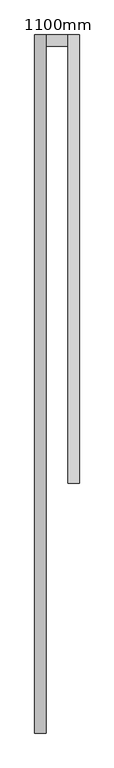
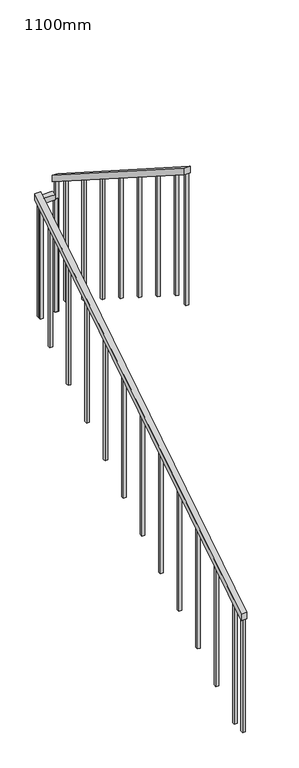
"""IFC4 building model written with IfcOpenShell, lengths in millimetres: railing geometry, 1100mm."""

from ifc_helpers import new_model, si_unit, frame, origin, place, context, project, spatial, polyline, outline, extrude, source, transform, mapped, element, save


def railing_1100mm_0a1800b7(model_context):
    return source(origin(), model_context, "Body", "SweptSolid", [
        extrude(outline(polyline([(17115.506875, 2219.5879612), (17115.506875, 2278.9287354), (20245.2153534, 4279.3266356), (20245.2153534, 4219.9858614), (17115.506875, 2219.5879612)])), frame((-4297.2327605, 0.0, 0.0), z_axis=(1.0, 0.0, 0.0), x_axis=(0.0, 1.0, 0.0)), (0.0, 0.0, 1.0), 50.0),
        extrude(outline(polyline([(20245.2153534, 4394.3609023), (20245.2153534, 4335.02192), (18235.506875, 5619.4220753), (18235.506875, 5678.7610576), (20245.2153534, 4394.3609023)])), frame((-4147.2327605, 0.0, 0.0), z_axis=(1.0, 0.0, 0.0), x_axis=(0.0, 1.0, 0.0)), (0.0, 0.0, 1.0), 50.0),
        extrude(outline(polyline([(-4247.2327605, 20195.2153534), (-4247.2327605, 20245.2153534), (-4147.2327605, 20245.2153534), (-4147.2327605, 20195.2153534), (-4247.2327605, 20195.2153534)])), frame((0.0, 0.0, 4197.3684211), z_axis=(0.0, 0.0, 1.0), x_axis=(1.0, 0.0, 0.0)), (0.0, 0.0, 1.0), 50.0),
        extrude(outline(polyline([(18412.7153534, 4400.0), (18387.7153534, 4400.0), (18387.7153534, 5522.1459801), (18412.7153534, 5506.1685365), (18412.7153534, 4400.0)])), frame((-4134.7327605, 0.0, 0.0), z_axis=(1.0, 0.0, 0.0), x_axis=(0.0, 1.0, 0.0)), (0.0, 0.0, 1.0), 25.0),
        extrude(outline(polyline([(18692.7153534, 4221.0526316), (18667.7153534, 4221.0526316), (18667.7153534, 5343.1986117), (18692.7153534, 5327.2211681), (18692.7153534, 4221.0526316)])), frame((-4134.7327605, 0.0, 0.0), z_axis=(1.0, 0.0, 0.0), x_axis=(0.0, 1.0, 0.0)), (0.0, 0.0, 1.0), 25.0),
        extrude(outline(polyline([(18972.7153534, 4042.1052632), (18947.7153534, 4042.1052632), (18947.7153534, 5164.2512433), (18972.7153534, 5148.2737997), (18972.7153534, 4042.1052632)])), frame((-4134.7327605, 0.0, 0.0), z_axis=(1.0, 0.0, 0.0), x_axis=(0.0, 1.0, 0.0)), (0.0, 0.0, 1.0), 25.0),
        extrude(outline(polyline([(19252.7153534, 3863.1578947), (19227.7153534, 3863.1578947), (19227.7153534, 4985.3038749), (19252.7153534, 4969.3264313), (19252.7153534, 3863.1578947)])), frame((-4134.7327605, 0.0, 0.0), z_axis=(1.0, 0.0, 0.0), x_axis=(0.0, 1.0, 0.0)), (0.0, 0.0, 1.0), 25.0),
        extrude(outline(polyline([(19532.7153534, 3684.2105263), (19507.7153534, 3684.2105263), (19507.7153534, 4806.3565065), (19532.7153534, 4790.3790628), (19532.7153534, 3684.2105263)])), frame((-4134.7327605, 0.0, 0.0), z_axis=(1.0, 0.0, 0.0), x_axis=(0.0, 1.0, 0.0)), (0.0, 0.0, 1.0), 25.0),
        extrude(outline(polyline([(19812.7153534, 3505.2631579), (19787.7153534, 3505.2631579), (19787.7153534, 4627.409138), (19812.7153534, 4611.4316944), (19812.7153534, 3505.2631579)])), frame((-4134.7327605, 0.0, 0.0), z_axis=(1.0, 0.0, 0.0), x_axis=(0.0, 1.0, 0.0)), (0.0, 0.0, 1.0), 25.0),
        extrude(outline(polyline([(20092.7153534, 3326.3157895), (20067.7153534, 3326.3157895), (20067.7153534, 4448.4617696), (20092.7153534, 4432.484326), (20092.7153534, 3326.3157895)])), frame((-4134.7327605, 0.0, 0.0), z_axis=(1.0, 0.0, 0.0), x_axis=(0.0, 1.0, 0.0)), (0.0, 0.0, 1.0), 25.0),
        extrude(outline(polyline([(-4144.7327605, 20232.7153534), (-4119.7327605, 20232.7153534), (-4119.7327605, 20207.7153534), (-4144.7327605, 20207.7153534), (-4144.7327605, 20232.7153534)])), frame((0.0, 0.0, 3147.3684211), z_axis=(0.0, 0.0, 1.0), x_axis=(1.0, 0.0, 0.0)), (0.0, 0.0, 1.0), 1050.0),
        extrude(outline(polyline([(20043.006875, 4090.7227898), (20068.006875, 4106.701897), (20068.006875, 2968.4210526), (20043.006875, 2968.4210526), (20043.006875, 4090.7227898)])), frame((-4284.7327605, 0.0, 0.0), z_axis=(1.0, 0.0, 0.0), x_axis=(0.0, 1.0, 0.0)), (0.0, 0.0, 1.0), 25.0),
        extrude(outline(polyline([(19763.006875, 3911.7754213), (19788.006875, 3927.7545286), (19788.006875, 2789.4736842), (19763.006875, 2789.4736842), (19763.006875, 3911.7754213)])), frame((-4284.7327605, 0.0, 0.0), z_axis=(1.0, 0.0, 0.0), x_axis=(0.0, 1.0, 0.0)), (0.0, 0.0, 1.0), 25.0),
        extrude(outline(polyline([(19483.006875, 3732.8280529), (19508.006875, 3748.8071602), (19508.006875, 2610.5263158), (19483.006875, 2610.5263158), (19483.006875, 3732.8280529)])), frame((-4284.7327605, 0.0, 0.0), z_axis=(1.0, 0.0, 0.0), x_axis=(0.0, 1.0, 0.0)), (0.0, 0.0, 1.0), 25.0),
        extrude(outline(polyline([(19203.006875, 3553.8806845), (19228.006875, 3569.8597918), (19228.006875, 2431.5789474), (19203.006875, 2431.5789474), (19203.006875, 3553.8806845)])), frame((-4284.7327605, 0.0, 0.0), z_axis=(1.0, 0.0, 0.0), x_axis=(0.0, 1.0, 0.0)), (0.0, 0.0, 1.0), 25.0),
        extrude(outline(polyline([(18923.006875, 3374.9333161), (18948.006875, 3390.9124233), (18948.006875, 2252.6315789), (18923.006875, 2252.6315789), (18923.006875, 3374.9333161)])), frame((-4284.7327605, 0.0, 0.0), z_axis=(1.0, 0.0, 0.0), x_axis=(0.0, 1.0, 0.0)), (0.0, 0.0, 1.0), 25.0),
        extrude(outline(polyline([(18643.006875, 3195.9859476), (18668.006875, 3211.9650549), (18668.006875, 2073.6842105), (18643.006875, 2073.6842105), (18643.006875, 3195.9859476)])), frame((-4284.7327605, 0.0, 0.0), z_axis=(1.0, 0.0, 0.0), x_axis=(0.0, 1.0, 0.0)), (0.0, 0.0, 1.0), 25.0),
        extrude(outline(polyline([(18363.006875, 3017.0385792), (18388.006875, 3033.0176865), (18388.006875, 1894.7368421), (18363.006875, 1894.7368421), (18363.006875, 3017.0385792)])), frame((-4284.7327605, 0.0, 0.0), z_axis=(1.0, 0.0, 0.0), x_axis=(0.0, 1.0, 0.0)), (0.0, 0.0, 1.0), 25.0),
        extrude(outline(polyline([(18083.006875, 2838.0912108), (18108.006875, 2854.0703181), (18108.006875, 1715.7894737), (18083.006875, 1715.7894737), (18083.006875, 2838.0912108)])), frame((-4284.7327605, 0.0, 0.0), z_axis=(1.0, 0.0, 0.0), x_axis=(0.0, 1.0, 0.0)), (0.0, 0.0, 1.0), 25.0),
        extrude(outline(polyline([(17803.006875, 2659.1438424), (17828.006875, 2675.1229497), (17828.006875, 1536.8421053), (17803.006875, 1536.8421053), (17803.006875, 2659.1438424)])), frame((-4284.7327605, 0.0, 0.0), z_axis=(1.0, 0.0, 0.0), x_axis=(0.0, 1.0, 0.0)), (0.0, 0.0, 1.0), 25.0),
        extrude(outline(polyline([(17523.006875, 2480.196474), (17548.006875, 2496.1755812), (17548.006875, 1357.8947368), (17523.006875, 1357.8947368), (17523.006875, 2480.196474)])), frame((-4284.7327605, 0.0, 0.0), z_axis=(1.0, 0.0, 0.0), x_axis=(0.0, 1.0, 0.0)), (0.0, 0.0, 1.0), 25.0),
        extrude(outline(polyline([(17243.006875, 2301.0814083), (17268.006875, 2317.0605156), (17268.006875, 1178.9473684), (17243.006875, 1178.9473684), (17243.006875, 2301.0814083)])), frame((-4284.7327605, 0.0, 0.0), z_axis=(1.0, 0.0, 0.0), x_axis=(0.0, 1.0, 0.0)), (0.0, 0.0, 1.0), 25.0),
        extrude(outline(polyline([(20232.7153534, 3147.3684211), (20207.7153534, 3147.3684211), (20207.7153534, 4358.9880854), (20232.7153534, 4343.0106418), (20232.7153534, 3147.3684211)])), frame((-4134.7327605, 0.0, 0.0), z_axis=(1.0, 0.0, 0.0), x_axis=(0.0, 1.0, 0.0)), (0.0, 0.0, 1.0), 25.0),
        extrude(outline(polyline([(-4284.7327605, 20207.7153534), (-4284.7327605, 20232.7153534), (-4259.7327605, 20232.7153534), (-4259.7327605, 20207.7153534), (-4284.7327605, 20207.7153534)])), frame((0.0, 0.0, 3147.3684211), z_axis=(0.0, 0.0, 1.0), x_axis=(1.0, 0.0, 0.0)), (0.0, 0.0, 1.0), 1050.0),
        extrude(outline(polyline([(20182.7153534, 4180.0380933), (20207.7153534, 4196.0172005), (20207.7153534, 3147.3684211), (20182.7153534, 3147.3684211), (20182.7153534, 4180.0380933)])), frame((-4284.7327605, 0.0, 0.0), z_axis=(1.0, 0.0, 0.0), x_axis=(0.0, 1.0, 0.0)), (0.0, 0.0, 1.0), 25.0),
        extrude(outline(polyline([(18260.506875, 4400.0), (18235.506875, 4400.0), (18235.506875, 5619.4220753), (18260.506875, 5603.4446317), (18260.506875, 4400.0)])), frame((-4134.7327605, 0.0, 0.0), z_axis=(1.0, 0.0, 0.0), x_axis=(0.0, 1.0, 0.0)), (0.0, 0.0, 1.0), 25.0),
        extrude(outline(polyline([(17115.506875, 2219.5879612), (17140.506875, 2235.5670685), (17140.506875, 1178.9473684), (17115.506875, 1178.9473684), (17115.506875, 2219.5879612)])), frame((-4284.7327605, 0.0, 0.0), z_axis=(1.0, 0.0, 0.0), x_axis=(0.0, 1.0, 0.0)), (0.0, 0.0, 1.0), 25.0),
    ])


if __name__ == "__main__":
    model = new_model("IFC4")
    model_context = context("Model", 3, world=origin())
    ifc_project = project(units=[si_unit("LENGTHUNIT", "METRE", prefix="MILLI")], contexts=[model_context])
    site = spatial("IfcSite", under=ifc_project)
    building = spatial("IfcBuilding", under=site)
    placement = place(None, origin())
    railing_1100mm_shape = railing_1100mm_0a1800b7(model_context)
    element("IfcRailing", 1, ObjectType="1100mm", at=placement, inside=building, context=model_context, shape_type="MappedRepresentation", body=[
        mapped(railing_1100mm_shape, transform((0.0, 0.0, 0.0), x_axis=(1.0, 0.0, 0.0), y_axis=(0.0, 1.0, 0.0), z_axis=(0.0, 0.0, 1.0))),
    ])
    save(model, "model.ifc")
